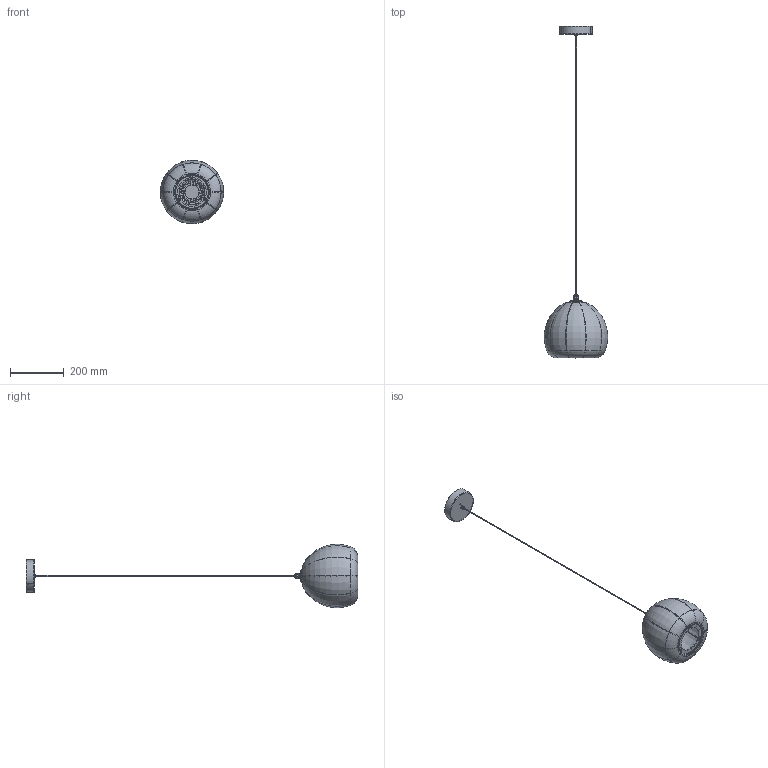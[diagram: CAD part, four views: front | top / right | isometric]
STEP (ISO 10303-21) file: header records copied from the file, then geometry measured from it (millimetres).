
FILE_DESCRIPTION (( 'STEP AP203' ), '1' );
FILE_NAME ('CA.S123.14.STEP', '2026-03-09T13:35:18', ( '' ), ( '' ), 'SwSTEP 2.0', 'SolidWorks 2013', '' );
FILE_SCHEMA (( 'CONFIG_CONTROL_DESIGN' ));
Length unit declared in the file: millimetre
Products named in the file (16): TC171_Difusor Ø67,5 3T Ø4; Pantalla Cala mini Ø230x200; KO219_manguera 2x0.35_100cm; TECH145.14N_Conjunt LED Cala mini 4,5W; Modul LED EA Solutions_Ø46 CL094_AD; AMS354_Armaçó Cala mini Ø230x200 10 radis; GI437_Disc embellidor sup. Ø71_Ø46_Cala mini; XV002_LED aluminium support Ø70x26; DIN7991 M3x6; CA.S123.14; GI436_Disc embellidor inf. Ø121_Ø90_Cala mini; S-10-01-STIC (auto adhesiu); EI05_presacable petit; KO225_Blocacable M8; AR117_FLORÓ ø120x30 2xM4 sistema USA; Premsaestopa M12
Assembly tree (22 placements, depth 3):
  CA.S123.14
    AMS354_Armaçó Cala mini Ø230x200 10 radis
    TECH145.14N_Conjunt LED Cala mini 4,5W
      XV002_LED aluminium support Ø70x26
      TC171_Difusor Ø67,5 3T Ø4
      Modul LED EA Solutions_Ø46 CL094_AD
      Premsaestopa M12
      KO219_manguera 2x0.35_100cm
      AR117_FLORÓ ø120x30 2xM4 sistema USA
      DIN7991 M3x6  x3
      EI05_presacable petit
      KO225_Blocacable M8
    S-10-01-STIC (auto adhesiu)  x6
    GI437_Disc embellidor sup. Ø71_Ø46_Cala mini
    GI436_Disc embellidor inf. Ø121_Ø90_Cala mini
    Pantalla Cala mini Ø230x200
Bounding box: 236.41 x 1234.29 x 235.63 mm (x, y, z)
Volume: 233691.7 mm3; surface area: 497323.9 mm2
Topology: 24 solids, 24 shells, 653 faces, 1578 edges, 989 vertices
Faces by surface type: plane 247, cylinder 206, torus 142, cone 52, bspline 6
Entity records: 20944 total; most frequent: CARTESIAN_POINT 4896, DIRECTION 3142, ORIENTED_EDGE 2860, EDGE_CURVE 1430, AXIS2_PLACEMENT_3D 1251, VERTEX_POINT 905, EDGE_LOOP 661, CIRCLE 652
